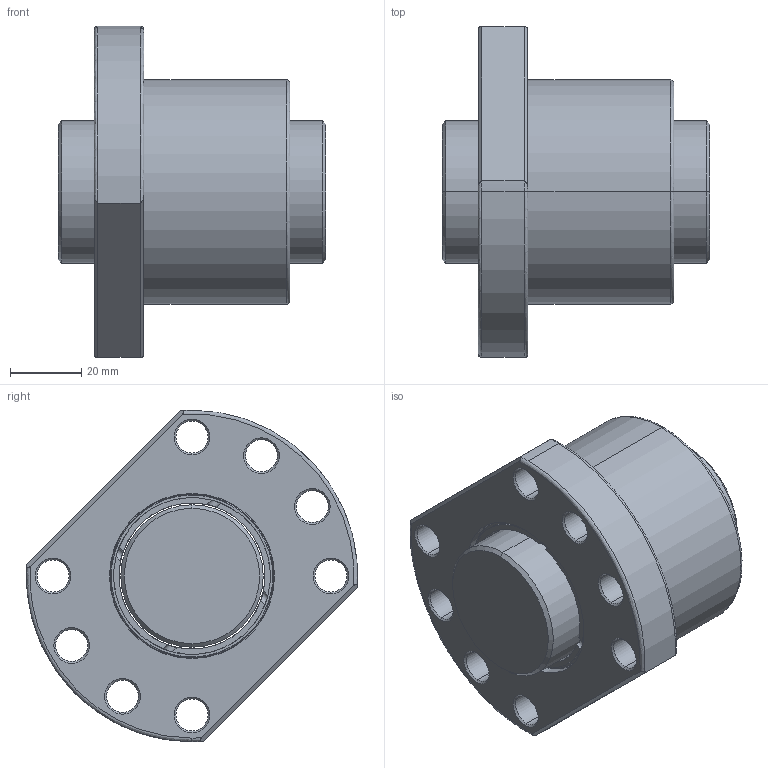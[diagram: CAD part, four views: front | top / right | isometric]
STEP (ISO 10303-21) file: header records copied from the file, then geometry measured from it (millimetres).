
FILE_DESCRIPTION (( 'STEP AP203' ), '1' );
FILE_NAME ('SFUR04005T4D-C.STEP', '2020-06-16T07:36:18', ( '' ), ( '' ), 'SwSTEP 2.0', 'SolidWorks 2013', '' );
FILE_SCHEMA (( 'CONFIG_CONTROL_DESIGN' ));
Length unit declared in the file: millimetre
Products named in the file (1): SFUR04005T4D-C
Bounding box: 75 x 92.86 x 93 mm (x, y, z)
Volume: 219166.4 mm3; surface area: 45900.5 mm2
Topology: 2 solids, 2 shells, 201 faces, 512 edges, 319 vertices
Faces by surface type: plane 84, cylinder 45, cone 34, bspline 30, torus 8
Entity records: 8571 total; most frequent: CARTESIAN_POINT 3780, ORIENTED_EDGE 1024, DIRECTION 903, EDGE_CURVE 512, AXIS2_PLACEMENT_3D 329, VERTEX_POINT 319, VECTOR 245, LINE 245
